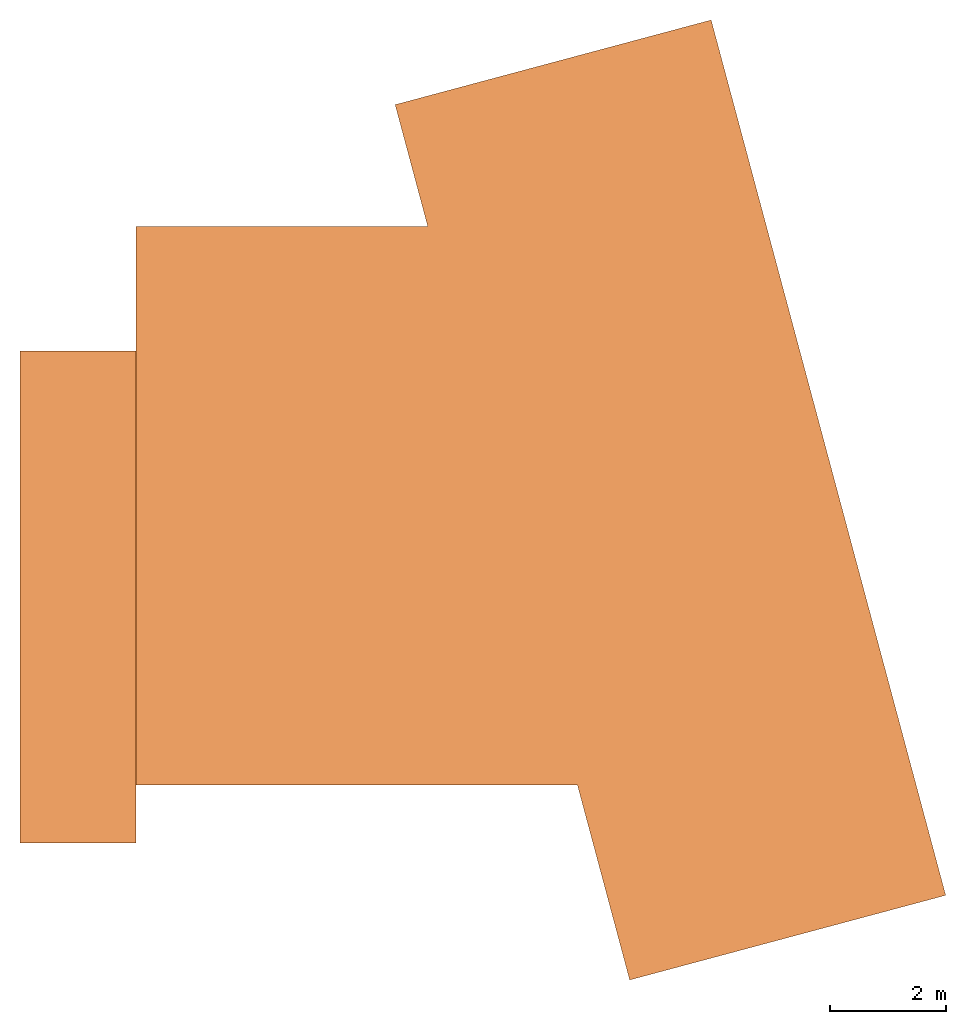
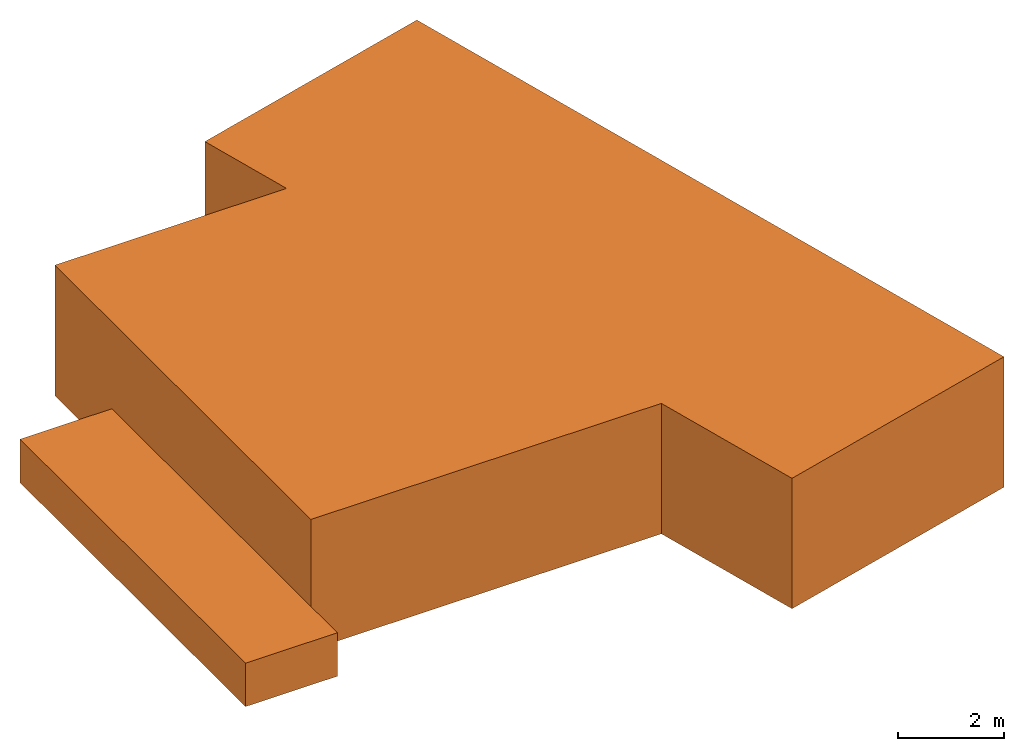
# One storey: 1 proxy.
"""IFC4 building model written with IfcOpenShell, lengths in metres."""

from ifc_helpers import new_model, entity, si_unit, converted_unit, derived_unit, frame, origin, place, context, subcontext, project, spatial, faceted_brep, element, save


model = new_model("IFC4")

# Units and contexts
model_context = context("Model", 3, precision=1e-05, world=origin())
body_context = subcontext(model_context, "Body", "Model", "MODEL_VIEW")
ifc_project = project(units=[si_unit("LENGTHUNIT", "METRE"), si_unit("AREAUNIT", "SQUARE_METRE"), si_unit("VOLUMEUNIT", "CUBIC_METRE"), si_unit("MASSUNIT", "GRAM", prefix="KILO"), converted_unit("PLANEANGLEUNIT", "DEGREE", entity("IfcPlaneAngleMeasure", 0.0174532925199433), si_unit("PLANEANGLEUNIT", "RADIAN"), dimensions=[0, 0, 0, 0, 0, 0, 0]), derived_unit("THERMALTRANSMITTANCEUNIT", [(si_unit("POWERUNIT", "WATT"), 1), (si_unit("THERMODYNAMICTEMPERATUREUNIT", "KELVIN"), -1), (si_unit("LENGTHUNIT", "METRE"), -2)]), derived_unit("VOLUMETRICFLOWRATEUNIT", [(si_unit("LENGTHUNIT", "METRE"), 3), (converted_unit("TIMEUNIT", "hour", entity("IfcTimeMeasure", 3600.0), si_unit("TIMEUNIT", "SECOND"), dimensions=[0, 0, 1, 0, 0, 0, 0]), -1), (si_unit("LENGTHUNIT", "METRE"), -1)])], contexts=[model_context])

# Site, building, storey
site_placement = place(None, origin())
site = spatial("IfcSite", under=ifc_project, at=site_placement, Name="Liegenschaft", CompositionType="ELEMENT")
building_placement = place(site_placement, origin())
building = spatial("IfcBuilding", under=site, at=building_placement, Name="Gebäude", CompositionType="ELEMENT")
storey_placement = place(building_placement, origin())
storey = spatial("IfcBuildingStorey", under=building, at=storey_placement, Name="Geschoss 02", CompositionType="ELEMENT", Elevation=0.0)

# Proxy
proxy_placement = place(storey_placement, frame((167.531764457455, -6.95728965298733, -0.249999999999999)))
element("IfcBuildingElementProxy", 1, at=proxy_placement, inside=storey, context=body_context, shape_type="Brep", body=[
    faceted_brep([(7.04213919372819, 13.0140205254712, 3.0), (6.47871742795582, 15.1167391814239, 3.0), (11.936198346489, 16.5790667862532, 3.0), (15.9867164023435, 1.46232760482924, 3.0), (10.5292354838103, 0.0, 3.0), (9.62784890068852, 3.36402052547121, 3.0), (1.99999999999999, 3.36402052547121, 3.0), (1.99999999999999, 13.0140205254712, 3.0), (11.936198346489, 16.5790667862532, 0.0), (6.47871742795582, 15.1167391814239, 0.0), (7.04213919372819, 13.0140205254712, 0.0), (1.99999999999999, 13.0140205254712, 0.0), (1.99999999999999, 10.8640205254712, 0.0), (0.0, 10.8640205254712, 0.0), (0.0, 2.36402052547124, 0.0), (1.99999999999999, 2.36402052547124, 0.0), (1.99999999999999, 3.36402052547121, 0.0), (9.62784890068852, 3.36402052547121, 0.0), (10.5292354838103, 0.0, 0.0), (15.9867164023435, 1.46232760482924, 0.0), (0.0, 10.8640205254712, 1.0), (0.0, 2.36402052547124, 1.0), (1.99999999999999, 2.36402052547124, 1.0), (1.99999999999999, 10.8640205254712, 1.0), (1.99999999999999, 3.36402052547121, 1.0)], [[[0, 1, 2, 3, 4, 5, 6, 7]], [[8, 9, 10, 11, 12, 13, 14, 15, 16, 17, 18, 19]], [[14, 13, 20, 21]], [[15, 14, 21, 22]], [[21, 20, 23, 24, 22]], [[13, 12, 23, 20]], [[15, 22, 24, 16]], [[5, 4, 18, 17]], [[19, 18, 4, 3]], [[6, 24, 23, 12, 11, 7]], [[8, 19, 3, 2]], [[9, 8, 2, 1]], [[7, 11, 10, 0]], [[10, 9, 1, 0]], [[5, 17, 16, 24, 6]]], orient=[[False], [False], [False], [False], [False], [False], [False], [False], [False], [False], [False], [False], [False], [False], [False]]),
])

save(model, "model.ifc")
